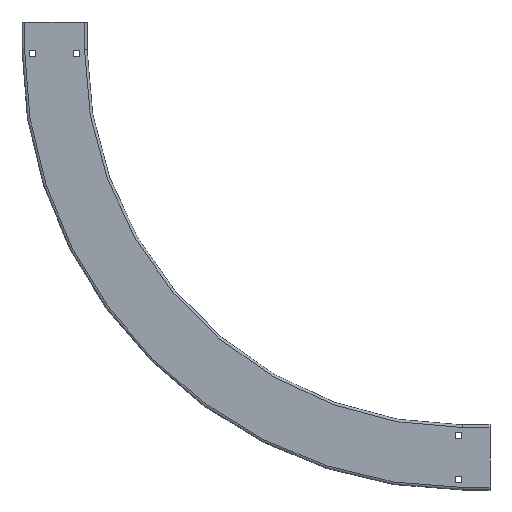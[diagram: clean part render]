
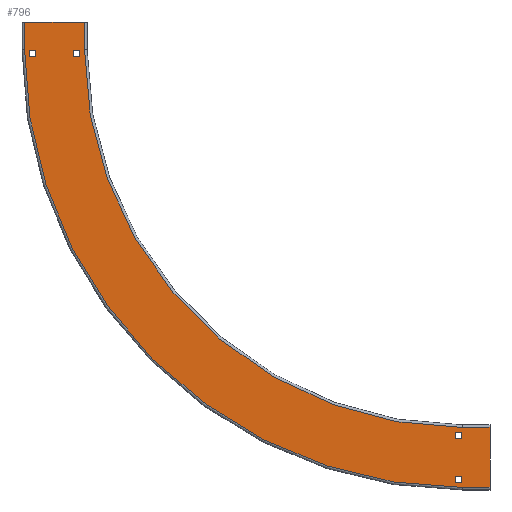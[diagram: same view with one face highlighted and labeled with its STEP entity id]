
A CAD part, left-side view. The second image highlights one B-rep face of the part: STEP entity #796.
In plain terms, the highlighted planar face has unit normal (-1, 0, 0).
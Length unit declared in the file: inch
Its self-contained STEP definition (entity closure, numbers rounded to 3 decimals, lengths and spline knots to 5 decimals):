
#1=DIRECTION('',(0.,0.,-1.));
#2=VECTOR('',#1,3.833);
#3=CARTESIAN_POINT('',(0.,-1.75,27.995));
#4=LINE('',#3,#2);
#5=DIRECTION('',(0.,1.,0.));
#6=VECTOR('',#5,3.833);
#7=CARTESIAN_POINT('',(0.,24.162,-1.75));
#8=LINE('',#7,#6);
#9=DIRECTION('',(0.,0.,-1.));
#10=VECTOR('',#9,0.41);
#11=CARTESIAN_POINT('',(0.,27.701,0.455));
#12=LINE('',#11,#10);
#13=DIRECTION('',(0.,-1.,0.));
#14=VECTOR('',#13,0.41);
#15=CARTESIAN_POINT('',(0.,27.701,0.045));
#16=LINE('',#15,#14);
#17=DIRECTION('',(0.,0.,1.));
#18=VECTOR('',#17,0.41);
#19=CARTESIAN_POINT('',(0.,27.291,0.045));
#20=LINE('',#19,#18);
#21=DIRECTION('',(0.,1.,0.));
#22=VECTOR('',#21,0.41);
#23=CARTESIAN_POINT('',(0.,27.291,0.455));
#24=LINE('',#23,#22);
#25=DIRECTION('',(0.,1.,0.));
#26=VECTOR('',#25,0.41);
#27=CARTESIAN_POINT('',(0.,24.456,0.455));
#28=LINE('',#27,#26);
#29=DIRECTION('',(0.,0.,-1.));
#30=VECTOR('',#29,0.41);
#31=CARTESIAN_POINT('',(0.,24.866,0.455));
#32=LINE('',#31,#30);
#33=DIRECTION('',(0.,-1.,0.));
#34=VECTOR('',#33,0.41);
#35=CARTESIAN_POINT('',(0.,24.866,0.045));
#36=LINE('',#35,#34);
#37=DIRECTION('',(0.,0.,1.));
#38=VECTOR('',#37,0.41);
#39=CARTESIAN_POINT('',(0.,24.456,0.045));
#40=LINE('',#39,#38);
#41=DIRECTION('',(0.,0.,-1.));
#42=VECTOR('',#41,0.41);
#43=CARTESIAN_POINT('',(0.,0.455,24.86477));
#44=LINE('',#43,#42);
#45=DIRECTION('',(0.,-1.,0.));
#46=VECTOR('',#45,0.41);
#47=CARTESIAN_POINT('',(0.,0.455,24.45477));
#48=LINE('',#47,#46);
#49=DIRECTION('',(0.,0.,1.));
#50=VECTOR('',#49,0.41);
#51=CARTESIAN_POINT('',(0.,0.045,24.45477));
#52=LINE('',#51,#50);
#53=DIRECTION('',(0.,1.,0.));
#54=VECTOR('',#53,0.41);
#55=CARTESIAN_POINT('',(0.,0.045,24.86477));
#56=LINE('',#55,#54);
#57=DIRECTION('',(0.,0.,1.));
#58=VECTOR('',#57,0.41);
#59=CARTESIAN_POINT('',(0.,0.045,27.2899));
#60=LINE('',#59,#58);
#61=DIRECTION('',(0.,1.,0.));
#62=VECTOR('',#61,0.41);
#63=CARTESIAN_POINT('',(0.,0.045,27.6999));
#64=LINE('',#63,#62);
#65=DIRECTION('',(0.,0.,-1.));
#66=VECTOR('',#65,0.41);
#67=CARTESIAN_POINT('',(0.,0.455,27.6999));
#68=LINE('',#67,#66);
#69=DIRECTION('',(0.,-1.,0.));
#70=VECTOR('',#69,0.41);
#71=CARTESIAN_POINT('',(0.,0.455,27.2899));
#72=LINE('',#71,#70);
#73=DIRECTION('',(0.,0.,1.));
#74=VECTOR('',#73,1.75);
#75=CARTESIAN_POINT('',(0.,27.995,-1.75));
#76=LINE('',#75,#74);
#114=DIRECTION('',(0.,0.,-1.));
#115=VECTOR('',#114,1.75);
#116=CARTESIAN_POINT('',(0.,24.162,0.));
#117=LINE('',#116,#115);
#123=CARTESIAN_POINT('',(0.,0.,0.));
#124=DIRECTION('',(-1.,0.,0.));
#125=DIRECTION('',(0.,0.,1.));
#126=AXIS2_PLACEMENT_3D('',#123,#124,#125);
#128=DIRECTION('',(0.,1.,0.));
#129=VECTOR('',#128,1.75);
#130=CARTESIAN_POINT('',(0.,-1.75,24.162));
#131=LINE('',#130,#129);
#169=DIRECTION('',(0.,-1.,0.));
#170=VECTOR('',#169,1.75);
#171=CARTESIAN_POINT('',(0.,0.,27.995));
#172=LINE('',#171,#170);
#178=CARTESIAN_POINT('',(0.,0.,0.));
#179=DIRECTION('',(1.,0.,0.));
#180=DIRECTION('',(0.,1.,0.));
#181=AXIS2_PLACEMENT_3D('',#178,#179,#180);
#573=CARTESIAN_POINT('',(0.,-1.75,24.162));
#575=VERTEX_POINT('',#573);
#579=CARTESIAN_POINT('',(0.,0.,24.162));
#581=VERTEX_POINT('',#579);
#585=CARTESIAN_POINT('',(0.,24.162,0.));
#587=VERTEX_POINT('',#585);
#591=CARTESIAN_POINT('',(0.,24.162,-1.75));
#593=VERTEX_POINT('',#591);
#621=CARTESIAN_POINT('',(0.,27.995,-1.75));
#622=VERTEX_POINT('',#621);
#623=CARTESIAN_POINT('',(0.,-1.75,27.995));
#624=VERTEX_POINT('',#623);
#629=CARTESIAN_POINT('',(0.,27.995,0.));
#631=VERTEX_POINT('',#629);
#635=CARTESIAN_POINT('',(0.,0.,27.995));
#637=VERTEX_POINT('',#635);
#669=CARTESIAN_POINT('',(0.,27.701,0.455));
#670=CARTESIAN_POINT('',(0.,27.701,0.045));
#671=VERTEX_POINT('',#669);
#672=VERTEX_POINT('',#670);
#673=CARTESIAN_POINT('',(0.,27.291,0.045));
#674=VERTEX_POINT('',#673);
#675=CARTESIAN_POINT('',(0.,27.291,0.455));
#676=VERTEX_POINT('',#675);
#677=CARTESIAN_POINT('',(0.,24.456,0.455));
#678=CARTESIAN_POINT('',(0.,24.866,0.455));
#679=VERTEX_POINT('',#677);
#680=VERTEX_POINT('',#678);
#681=CARTESIAN_POINT('',(0.,24.866,0.045));
#682=VERTEX_POINT('',#681);
#683=CARTESIAN_POINT('',(0.,24.456,0.045));
#684=VERTEX_POINT('',#683);
#701=CARTESIAN_POINT('',(0.,0.455,24.86477));
#702=CARTESIAN_POINT('',(0.,0.455,24.45477));
#703=VERTEX_POINT('',#701);
#704=VERTEX_POINT('',#702);
#705=CARTESIAN_POINT('',(0.,0.045,24.45477));
#706=VERTEX_POINT('',#705);
#707=CARTESIAN_POINT('',(0.,0.045,24.86477));
#708=VERTEX_POINT('',#707);
#709=CARTESIAN_POINT('',(0.,0.045,27.2899));
#710=CARTESIAN_POINT('',(0.,0.045,27.6999));
#711=VERTEX_POINT('',#709);
#712=VERTEX_POINT('',#710);
#713=CARTESIAN_POINT('',(0.,0.455,27.6999));
#714=VERTEX_POINT('',#713);
#715=CARTESIAN_POINT('',(0.,0.455,27.2899));
#716=VERTEX_POINT('',#715);
#733=CARTESIAN_POINT('',(0.,0.,0.));
#734=DIRECTION('',(1.,0.,0.));
#735=DIRECTION('',(0.,0.,-1.));
#736=AXIS2_PLACEMENT_3D('',#733,#734,#735);
#737=PLANE('',#736);
#739=ORIENTED_EDGE('',*,*,#738,.T.);
#741=ORIENTED_EDGE('',*,*,#740,.T.);
#743=ORIENTED_EDGE('',*,*,#742,.T.);
#745=ORIENTED_EDGE('',*,*,#744,.T.);
#747=ORIENTED_EDGE('',*,*,#746,.T.);
#749=ORIENTED_EDGE('',*,*,#748,.T.);
#751=ORIENTED_EDGE('',*,*,#750,.T.);
#753=ORIENTED_EDGE('',*,*,#752,.T.);
#754=EDGE_LOOP('',(#739,#741,#743,#745,#747,#749,#751,#753));
#755=FACE_OUTER_BOUND('',#754,.F.);
#757=ORIENTED_EDGE('',*,*,#756,.T.);
#759=ORIENTED_EDGE('',*,*,#758,.T.);
#761=ORIENTED_EDGE('',*,*,#760,.T.);
#763=ORIENTED_EDGE('',*,*,#762,.T.);
#764=EDGE_LOOP('',(#757,#759,#761,#763));
#765=FACE_BOUND('',#764,.F.);
#767=ORIENTED_EDGE('',*,*,#766,.T.);
#769=ORIENTED_EDGE('',*,*,#768,.T.);
#771=ORIENTED_EDGE('',*,*,#770,.T.);
#773=ORIENTED_EDGE('',*,*,#772,.T.);
#774=EDGE_LOOP('',(#767,#769,#771,#773));
#775=FACE_BOUND('',#774,.F.);
#777=ORIENTED_EDGE('',*,*,#776,.T.);
#779=ORIENTED_EDGE('',*,*,#778,.T.);
#781=ORIENTED_EDGE('',*,*,#780,.T.);
#783=ORIENTED_EDGE('',*,*,#782,.T.);
#784=EDGE_LOOP('',(#777,#779,#781,#783));
#785=FACE_BOUND('',#784,.F.);
#787=ORIENTED_EDGE('',*,*,#786,.T.);
#789=ORIENTED_EDGE('',*,*,#788,.T.);
#791=ORIENTED_EDGE('',*,*,#790,.T.);
#793=ORIENTED_EDGE('',*,*,#792,.T.);
#794=EDGE_LOOP('',(#787,#789,#791,#793));
#795=FACE_BOUND('',#794,.F.);
#796=ADVANCED_FACE('',(#755,#765,#775,#785,#795),#737,.F.);
#127=CIRCLE('',#126,24.162);
#182=CIRCLE('',#181,27.995);
#738=EDGE_CURVE('',#622,#631,#76,.T.);
#740=EDGE_CURVE('',#631,#637,#182,.T.);
#742=EDGE_CURVE('',#637,#624,#172,.T.);
#744=EDGE_CURVE('',#624,#575,#4,.T.);
#746=EDGE_CURVE('',#575,#581,#131,.T.);
#748=EDGE_CURVE('',#581,#587,#127,.T.);
#750=EDGE_CURVE('',#587,#593,#117,.T.);
#752=EDGE_CURVE('',#593,#622,#8,.T.);
#756=EDGE_CURVE('',#671,#672,#12,.T.);
#758=EDGE_CURVE('',#672,#674,#16,.T.);
#760=EDGE_CURVE('',#674,#676,#20,.T.);
#762=EDGE_CURVE('',#676,#671,#24,.T.);
#766=EDGE_CURVE('',#679,#680,#28,.T.);
#768=EDGE_CURVE('',#680,#682,#32,.T.);
#770=EDGE_CURVE('',#682,#684,#36,.T.);
#772=EDGE_CURVE('',#684,#679,#40,.T.);
#776=EDGE_CURVE('',#703,#704,#44,.T.);
#778=EDGE_CURVE('',#704,#706,#48,.T.);
#780=EDGE_CURVE('',#706,#708,#52,.T.);
#782=EDGE_CURVE('',#708,#703,#56,.T.);
#786=EDGE_CURVE('',#711,#712,#60,.T.);
#788=EDGE_CURVE('',#712,#714,#64,.T.);
#790=EDGE_CURVE('',#714,#716,#68,.T.);
#792=EDGE_CURVE('',#716,#711,#72,.T.);
